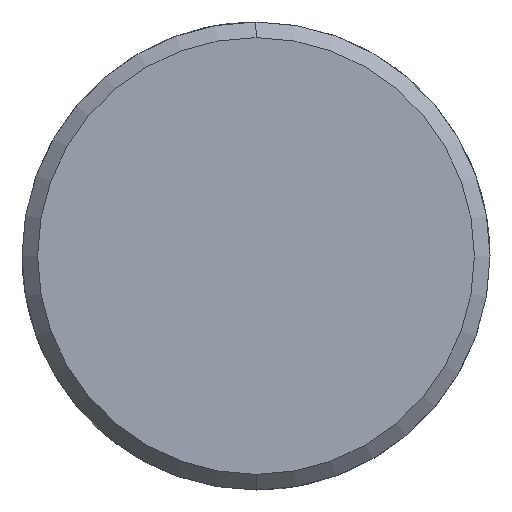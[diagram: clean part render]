
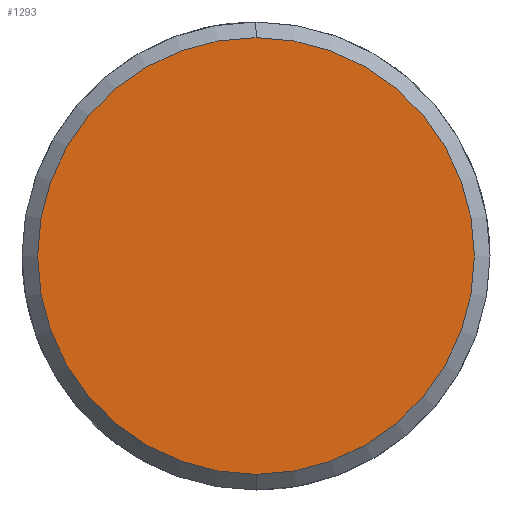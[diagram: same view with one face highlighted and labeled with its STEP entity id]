
A CAD part, left-side view. The second image highlights one B-rep face of the part: STEP entity #1293.
In plain terms, the highlighted planar face has unit normal (-1, 0, 0).
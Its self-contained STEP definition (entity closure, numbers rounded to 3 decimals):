
#1225=CARTESIAN_POINT('Vertex',(-5.,0.,-14.)) ;
#1228=CARTESIAN_POINT('Axis2P3D Location',(-5.,0.,0.)) ;
#1232=CARTESIAN_POINT('Vertex',(-5.,14.,0.)) ;
#1235=CARTESIAN_POINT('Axis2P3D Location',(-5.,0.,0.)) ;
#1239=CARTESIAN_POINT('Vertex',(-5.,0.,14.)) ;
#1261=CARTESIAN_POINT('Axis2P3D Location',(-5.,0.,0.)) ;
#1265=CARTESIAN_POINT('Vertex',(-5.,-14.,0.)) ;
#1268=CARTESIAN_POINT('Axis2P3D Location',(-5.,0.,0.)) ;
#1282=CARTESIAN_POINT('Axis2P3D Location',(-5.,0.,0.)) ;
#1229=DIRECTION('Axis2P3D Direction',(1.,0.,-0.)) ;
#1236=DIRECTION('Axis2P3D Direction',(1.,0.,-0.)) ;
#1262=DIRECTION('Axis2P3D Direction',(1.,0.,-0.)) ;
#1269=DIRECTION('Axis2P3D Direction',(1.,0.,-0.)) ;
#1283=DIRECTION('Axis2P3D Direction',(1.,0.,-0.)) ;
#1284=DIRECTION('Axis2P3D XDirection',(-0.,0.,-1.)) ;
#1230=AXIS2_PLACEMENT_3D('Circle Axis2P3D',#1228,#1229,$) ;
#1237=AXIS2_PLACEMENT_3D('Circle Axis2P3D',#1235,#1236,$) ;
#1263=AXIS2_PLACEMENT_3D('Circle Axis2P3D',#1261,#1262,$) ;
#1270=AXIS2_PLACEMENT_3D('Circle Axis2P3D',#1268,#1269,$) ;
#1285=AXIS2_PLACEMENT_3D('Plane Axis2P3D',#1282,#1283,#1284) ;
#1288=ORIENTED_EDGE('',*,*,#1234,.F.) ;
#1289=ORIENTED_EDGE('',*,*,#1272,.F.) ;
#1290=ORIENTED_EDGE('',*,*,#1267,.F.) ;
#1291=ORIENTED_EDGE('',*,*,#1241,.F.) ;
#1293=ADVANCED_FACE('351-18X26X100',(#1292),#1286,.F.) ;
#1231=CIRCLE('generated circle',#1230,14.) ;
#1238=CIRCLE('generated circle',#1237,14.) ;
#1264=CIRCLE('generated circle',#1263,14.) ;
#1271=CIRCLE('generated circle',#1270,14.) ;
#1234=EDGE_CURVE('',#1226,#1233,#1231,.T.) ;
#1241=EDGE_CURVE('',#1233,#1240,#1238,.T.) ;
#1267=EDGE_CURVE('',#1240,#1266,#1264,.T.) ;
#1272=EDGE_CURVE('',#1266,#1226,#1271,.T.) ;
#1287=EDGE_LOOP('',(#1288,#1289,#1290,#1291)) ;
#1292=FACE_OUTER_BOUND('',#1287,.T.) ;
#1286=PLANE('Plane',#1285) ;
#1226=VERTEX_POINT('',#1225) ;
#1233=VERTEX_POINT('',#1232) ;
#1240=VERTEX_POINT('',#1239) ;
#1266=VERTEX_POINT('',#1265) ;
